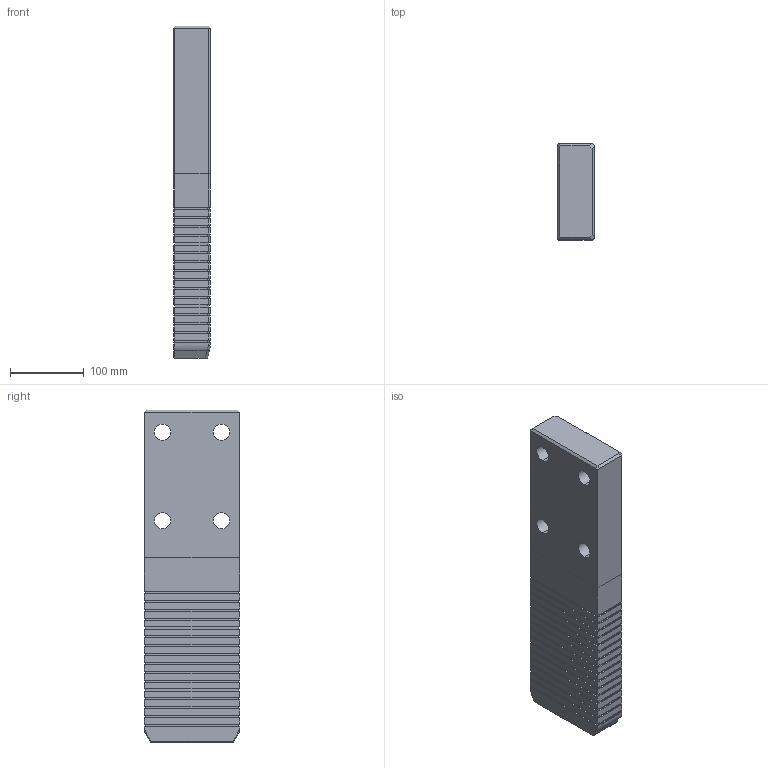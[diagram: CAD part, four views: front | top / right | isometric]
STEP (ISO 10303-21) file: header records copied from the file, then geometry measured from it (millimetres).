
FILE_DESCRIPTION((''),'2;1');
FILE_NAME('','2010-09-22T13:24:23+09:00',('misumi'),(''),'M/STEP i/f 1R2-14','CADmeister v5.1','');
FILE_SCHEMA(('AUTOMOTIVE_DESIGN'));
Length unit declared in the file: millimetre
Products named in the file (1): GWAZ130-450
Bounding box: 50 x 130 x 450 mm (x, y, z)
Volume: 2803826.5 mm3; surface area: 199015.9 mm2
Topology: 1 solids, 1 shells, 344 faces, 907 edges, 598 vertices
Faces by surface type: plane 323, cylinder 13, bspline 6, cone 2
Entity records: 10788 total; most frequent: CARTESIAN_POINT 2190, ORIENTED_EDGE 1810, DIRECTION 1593, EDGE_CURVE 905, LINE 863, VECTOR 863, VERTEX_POINT 596, EDGE_LOOP 385
